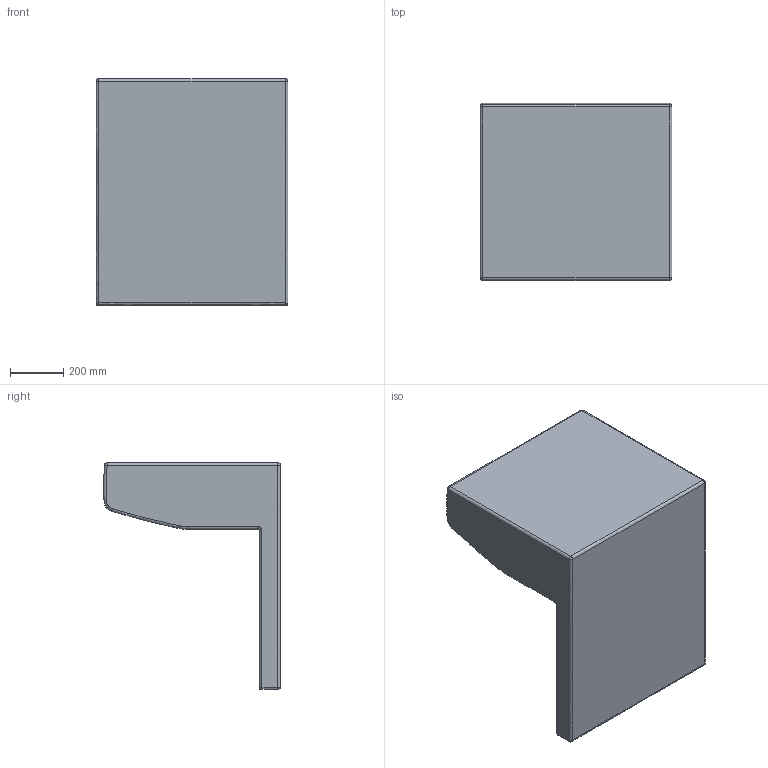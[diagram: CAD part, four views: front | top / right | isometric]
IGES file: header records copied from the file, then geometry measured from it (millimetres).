
Start section: SolidWorks IGES file using NURBS representation for surfaces
Global section: file name: D:\VICCARBE\PRODUCTOS\19-MASS\04-MODELADOS (PLANOS)\SOLIDWORKS\PIEZAS\Backs\01-IGES\VICCARBE_Back_72.IGS; native system: SolidWorks 2009; preprocessor: SolidWorks 2009; author: RUBEN; date: 110908.155231; units: millimetre
Bounding box: 720 x 664.95 x 850 mm (x, y, z)
Surface area: 2491772.6 mm2 (no closed solid volume)
Topology: 0 solids, 0 shells, 44 faces, 296 edges, 290 vertices
Faces by surface type: bspline 44
